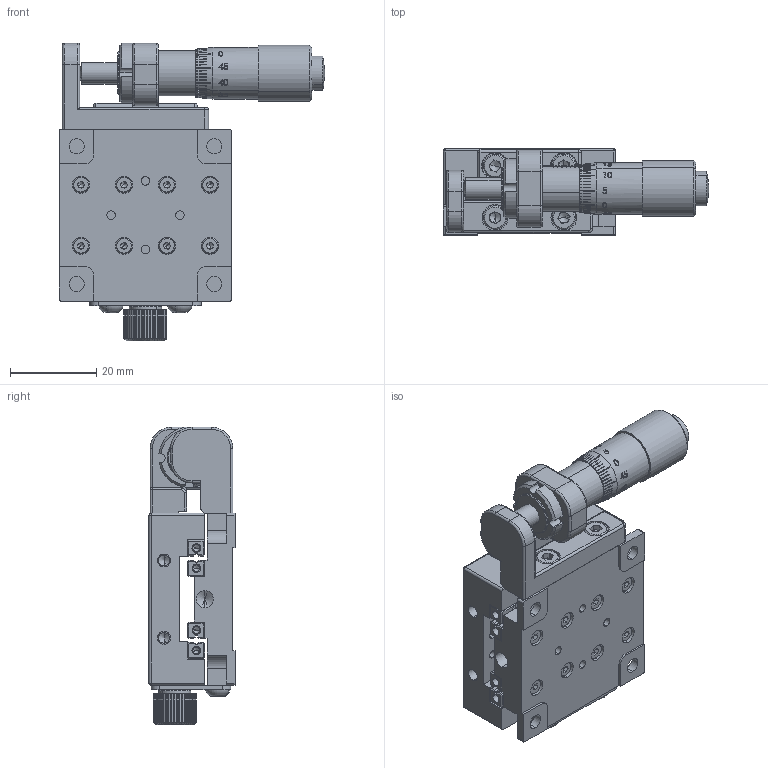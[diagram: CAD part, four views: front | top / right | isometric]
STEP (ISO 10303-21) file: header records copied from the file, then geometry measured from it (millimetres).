
FILE_DESCRIPTION (( 'STEP AP203' ), '1' );
FILE_NAME ('M-TSSJ40Z-05-BR.STEP', '2022-09-27T02:17:37', ( '¦K¬P' ), ( '' ), 'SwSTEP 2.0', 'SolidWorks 2019', '' );
FILE_SCHEMA (( 'CONFIG_CONTROL_DESIGN' ));
Length unit declared in the file: millimetre
Products named in the file (1): M-TSSJ40Z-05-BR
Bounding box: 61.64 x 20 x 69.2 mm (x, y, z)
Volume: 34668.9 mm3; surface area: 28477.8 mm2
Topology: 42 solids, 42 shells, 2395 faces, 6020 edges, 3770 vertices
Faces by surface type: plane 1121, cylinder 657, bspline 304, cone 285, torus 18, sphere 10
Entity records: 92685 total; most frequent: CARTESIAN_POINT 36265, ORIENTED_EDGE 11778, DIRECTION 11393, EDGE_CURVE 5889, AXIS2_PLACEMENT_3D 4043, VERTEX_POINT 3770, VECTOR 3307, LINE 3307
